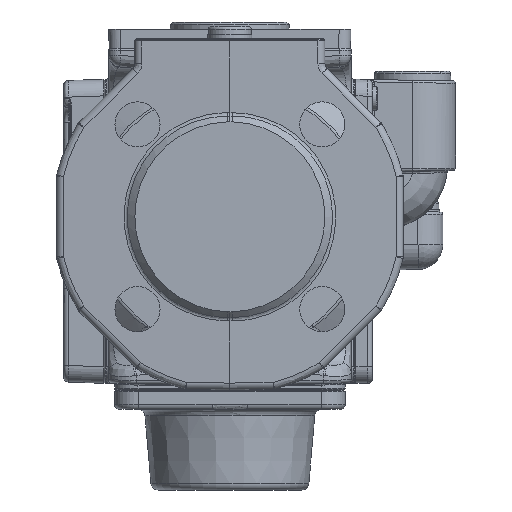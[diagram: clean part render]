
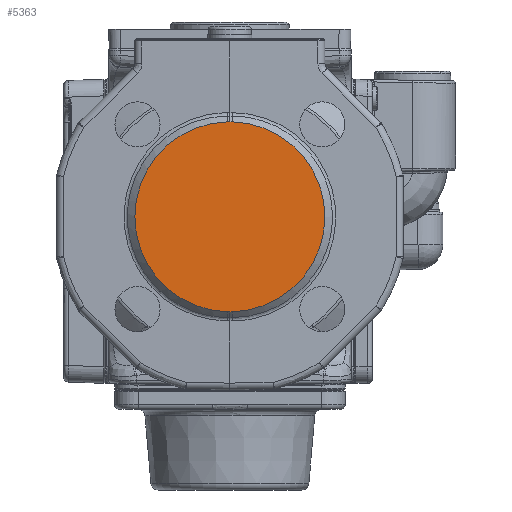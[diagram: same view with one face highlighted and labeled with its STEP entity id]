
A CAD part, left-side view. The second image highlights one B-rep face of the part: STEP entity #5363.
In plain terms, the highlighted planar face has unit normal (-1, 0, 0).
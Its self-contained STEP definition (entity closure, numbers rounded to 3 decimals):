
#2868=B_SPLINE_CURVE_WITH_KNOTS('',3,(#64892,#64893,#64894,#64895,#64896,
#64897,#64898),.UNSPECIFIED.,.F.,.F.,(4,3,4),(0.,0.403,1.),
 .UNSPECIFIED.);
#2872=B_SPLINE_CURVE_WITH_KNOTS('',3,(#64944,#64945,#64946,#64947,#64948,
#64949,#64950),.UNSPECIFIED.,.F.,.F.,(4,3,4),(0.,0.47,1.),
 .UNSPECIFIED.);
#2877=B_SPLINE_CURVE_WITH_KNOTS('',3,(#65024,#65025,#65026,#65027,#65028,
#65029,#65030),.UNSPECIFIED.,.F.,.F.,(4,3,4),(0.,0.47,1.),
 .UNSPECIFIED.);
#2879=B_SPLINE_CURVE_WITH_KNOTS('',3,(#65058,#65059,#65060,#65061,#65062,
#65063,#65064),.UNSPECIFIED.,.F.,.F.,(4,3,4),(0.,0.403,1.),
 .UNSPECIFIED.);
#5363=ADVANCED_FACE('',(#9444),#7520,.T.);
#7520=PLANE('',#49006);
#9444=FACE_OUTER_BOUND('',#12040,.T.);
#12040=EDGE_LOOP('',(#27861,#27862,#27863,#27864,#27865,#27866));
#14338=CIRCLE('',#47381,40.);
#14339=CIRCLE('',#47383,40.);
#27861=ORIENTED_EDGE('',*,*,#40289,.F.);
#27862=ORIENTED_EDGE('',*,*,#40282,.F.);
#27863=ORIENTED_EDGE('',*,*,#40292,.F.);
#27864=ORIENTED_EDGE('',*,*,#40297,.F.);
#27865=ORIENTED_EDGE('',*,*,#40294,.F.);
#27866=ORIENTED_EDGE('',*,*,#40286,.F.);
#36006=VERTEX_POINT('',#64891);
#36007=VERTEX_POINT('',#64899);
#36010=VERTEX_POINT('',#64943);
#36011=VERTEX_POINT('',#64951);
#36014=VERTEX_POINT('',#65023);
#36015=VERTEX_POINT('',#65065);
#40282=EDGE_CURVE('',#36006,#36007,#2868,.T.);
#40286=EDGE_CURVE('',#36010,#36011,#2872,.T.);
#40289=EDGE_CURVE('',#36007,#36010,#14338,.T.);
#40292=EDGE_CURVE('',#36014,#36006,#2877,.T.);
#40294=EDGE_CURVE('',#36011,#36015,#2879,.T.);
#40297=EDGE_CURVE('',#36015,#36014,#14339,.T.);
#47381=AXIS2_PLACEMENT_3D('',#64987,#52210,#52211);
#47383=AXIS2_PLACEMENT_3D('',#65104,#52214,#52215);
#49006=AXIS2_PLACEMENT_3D('',#90026,#56468,#56469);
#52210=DIRECTION('',(1.,0.,0.));
#52211=DIRECTION('',(0.,1.,0.));
#52214=DIRECTION('',(1.,0.,0.));
#52215=DIRECTION('',(0.,1.,0.));
#56468=DIRECTION('',(-1.,0.,0.));
#56469=DIRECTION('',(0.,1.,0.));
#64891=CARTESIAN_POINT('',(-120.,-1.,-41.012));
#64892=CARTESIAN_POINT('',(-120.,-1.,-41.012));
#64893=CARTESIAN_POINT('',(-120.,-0.867,-41.009));
#64894=CARTESIAN_POINT('',(-120.,-0.735,-41.006));
#64895=CARTESIAN_POINT('',(-120.,-0.602,-41.002));
#64896=CARTESIAN_POINT('',(-120.,-0.405,-40.998));
#64897=CARTESIAN_POINT('',(-120.,-0.209,-40.993));
#64898=CARTESIAN_POINT('',(-120.,-0.013,-40.988));
#64899=CARTESIAN_POINT('',(-120.,-0.013,-40.988));
#64943=CARTESIAN_POINT('',(-120.,-0.013,38.988));
#64944=CARTESIAN_POINT('',(-120.,-0.013,38.988));
#64945=CARTESIAN_POINT('',(-120.,-0.167,38.992));
#64946=CARTESIAN_POINT('',(-120.,-0.322,38.995));
#64947=CARTESIAN_POINT('',(-120.,-0.477,38.999));
#64948=CARTESIAN_POINT('',(-120.,-0.651,39.004));
#64949=CARTESIAN_POINT('',(-120.,-0.826,39.008));
#64950=CARTESIAN_POINT('',(-120.,-1.,39.012));
#64951=CARTESIAN_POINT('',(-120.,-1.,39.012));
#64987=CARTESIAN_POINT('',(-120.,-1.,-1.));
#65023=CARTESIAN_POINT('',(-120.,-1.987,-40.988));
#65024=CARTESIAN_POINT('',(-120.,-1.987,-40.988));
#65025=CARTESIAN_POINT('',(-120.,-1.833,-40.992));
#65026=CARTESIAN_POINT('',(-120.,-1.678,-40.995));
#65027=CARTESIAN_POINT('',(-120.,-1.523,-40.999));
#65028=CARTESIAN_POINT('',(-120.,-1.349,-41.004));
#65029=CARTESIAN_POINT('',(-120.,-1.174,-41.008));
#65030=CARTESIAN_POINT('',(-120.,-1.,-41.012));
#65058=CARTESIAN_POINT('',(-120.,-1.,39.012));
#65059=CARTESIAN_POINT('',(-120.,-1.133,39.009));
#65060=CARTESIAN_POINT('',(-120.,-1.265,39.006));
#65061=CARTESIAN_POINT('',(-120.,-1.398,39.002));
#65062=CARTESIAN_POINT('',(-120.,-1.595,38.998));
#65063=CARTESIAN_POINT('',(-120.,-1.791,38.993));
#65064=CARTESIAN_POINT('',(-120.,-1.987,38.988));
#65065=CARTESIAN_POINT('',(-120.,-1.987,38.988));
#65104=CARTESIAN_POINT('',(-120.,-1.,-1.));
#90026=CARTESIAN_POINT('',(-120.,-1.,-1.));
